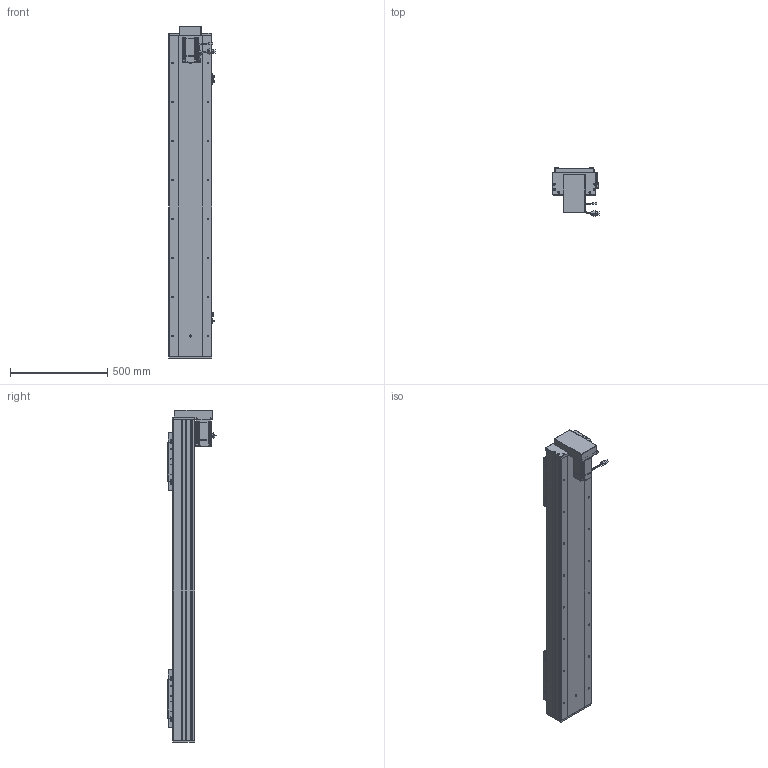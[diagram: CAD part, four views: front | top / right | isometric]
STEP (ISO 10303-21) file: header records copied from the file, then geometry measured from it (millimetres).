
FILE_DESCRIPTION (( 'STEP AP203' ), '1' );
FILE_NAME ('RY220F-L2525-800-BK-邧嶺.SLDASM_1200.step', '2022-08-06T08:07:57', ( '' ), ( '' ), 'SwSTEP 2.0', 'SolidWorks 2016', '' );
FILE_SCHEMA (( 'CONFIG_CONTROL_DESIGN' ));
Length unit declared in the file: millimetre
Products named in the file (15): RY220F-滅鳥奻裔; 覜茼ん672; RY220狟殏萇儂假蚾啣; RY220F-L2525-800-BK-邧嶺.SLDASM_1200; RY220狟殏萇儂欶; RY220F綴裔啣; RY220F-蛌殏奻裔啣-800_1200; 滅袉蝶18-24; 侐源滅袉蝶; RY220F-672覜茼んえ; RY220F臏賑釱25-32佪裝; 怢湛750W_ECMA-CX0807ES; RY220F-祥凄詩湍-蛌殏-800_1200; RY220F蛌殏菁釱-800-邧嶺_1200; RY220F-詩湍揤踡輸
Assembly tree (24 placements, depth 2):
  RY220F-L2525-800-BK-邧嶺.SLDASM_1200
    RY220F蛌殏菁釱-800-邧嶺_1200
    RY220F-蛌殏奻裔啣-800_1200  x2
    怢湛750W_ECMA-CX0807ES
    RY220F臏賑釱25-32佪裝  x2
    RY220F-滅鳥奻裔  x2
    滅袉蝶18-24  x3
    RY220F綴裔啣
    RY220F-祥凄詩湍-蛌殏-800_1200
    RY220F-詩湍揤踡輸  x2
    覜茼ん672  x3
    RY220F-672覜茼んえ  x2
    侐源滅袉蝶  x2
    RY220狟殏萇儂假蚾啣
    RY220狟殏萇儂欶
Bounding box: 237.27 x 247.24 x 1703 mm (x, y, z)
Volume: 15916816.4 mm3; surface area: 4134762.3 mm2
Topology: 25 solids, 25 shells, 2807 faces, 7622 edges, 4705 vertices
Faces by surface type: cylinder 1250, plane 1062, cone 424, bspline 45, sphere 16, torus 10
Entity records: 69641 total; most frequent: CARTESIAN_POINT 18819, ORIENTED_EDGE 10266, DIRECTION 9993, EDGE_CURVE 5133, AXIS2_PLACEMENT_3D 3546, VERTEX_POINT 3321, VECTOR 2901, LINE 2901
